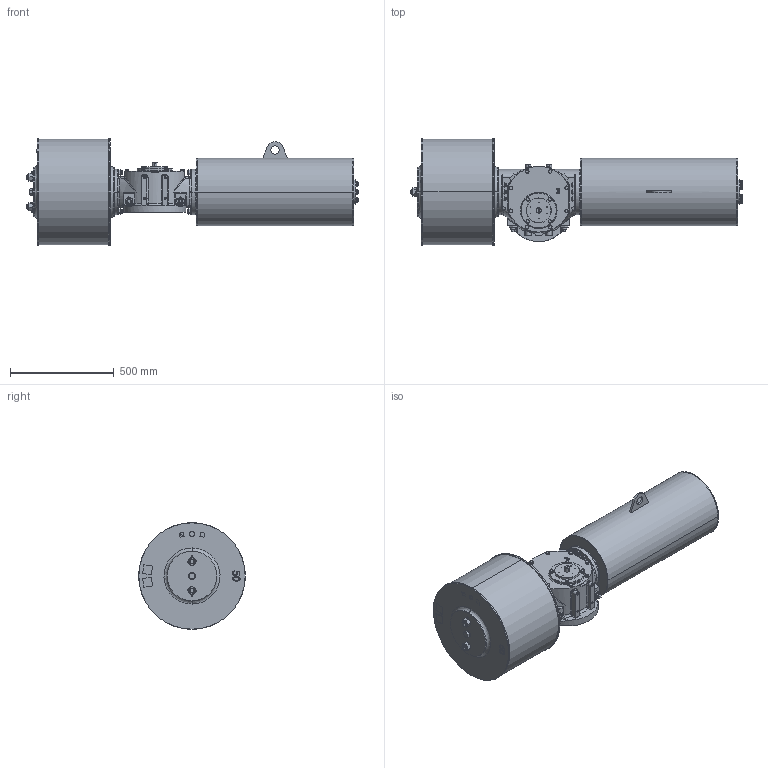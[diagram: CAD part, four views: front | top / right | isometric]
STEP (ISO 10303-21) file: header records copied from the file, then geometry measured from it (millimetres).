
FILE_DESCRIPTION (( 'STEP AP203' ), '1' );
FILE_NAME ('VTS3-500-SR-FC.STEP', '2023-01-01T08:53:32', ( '' ), ( '' ), 'SwSTEP 2.0', 'SolidWorks 2020', '' );
FILE_SCHEMA (( 'CONFIG_CONTROL_DESIGN' ));
Length unit declared in the file: millimetre
Products named in the file (1): VTS3-500-SR-FC
Bounding box: 1598.78 x 514 x 514 mm (x, y, z)
Volume: 155170859.1 mm3; surface area: 2699557.5 mm2
Topology: 4 solids, 5 shells, 1971 faces, 5056 edges, 3183 vertices
Faces by surface type: plane 783, cylinder 601, cone 436, bspline 151
Entity records: 76405 total; most frequent: CARTESIAN_POINT 30079, ORIENTED_EDGE 9982, DIRECTION 9386, EDGE_CURVE 4991, AXIS2_PLACEMENT_3D 3714, VERTEX_POINT 3183, EDGE_LOOP 2190, FACE_OUTER_BOUND 1971
